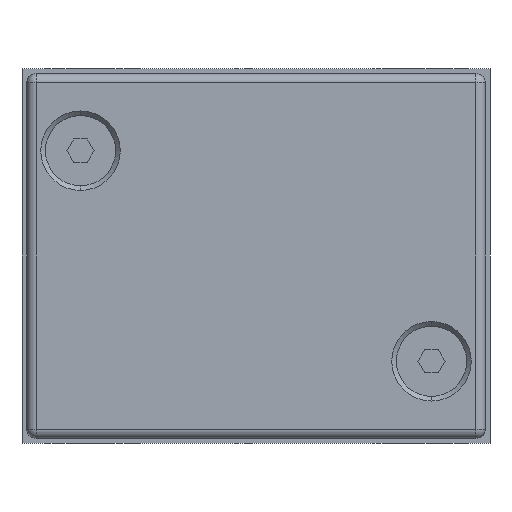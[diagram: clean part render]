
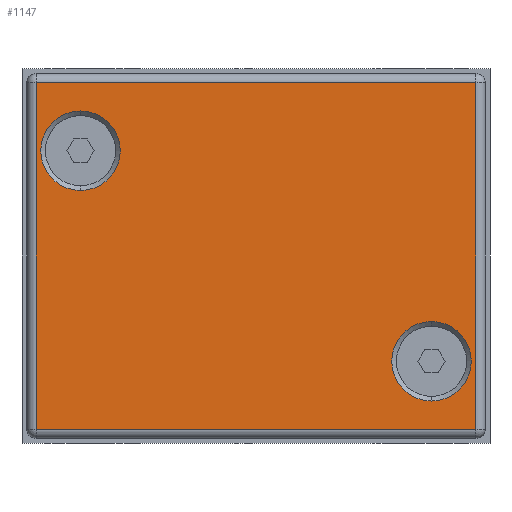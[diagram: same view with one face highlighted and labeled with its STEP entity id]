
A CAD part, front view. The second image highlights one B-rep face of the part: STEP entity #1147.
In plain terms, the highlighted planar face has unit normal (0, -1, 0).
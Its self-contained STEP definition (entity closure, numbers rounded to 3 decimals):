
#5 = EDGE_CURVE ( 'NONE', #916, #917, #1469, .T. ) ;
#7 = EDGE_CURVE ( 'NONE', #810, #811, #1474, .T. ) ;
#8 = EDGE_CURVE ( 'NONE', #808, #809, #1476, .T. ) ;
#9 = EDGE_CURVE ( 'NONE', #917, #918, #1475, .T. ) ;
#10 = EDGE_CURVE ( 'NONE', #918, #919, #1477, .T. ) ;
#69 = EDGE_CURVE ( 'NONE', #809, #808, #1580, .T. ) ;
#89 = EDGE_CURVE ( 'NONE', #811, #810, #1610, .T. ) ;
#149 = AXIS2_PLACEMENT_3D ( 'NONE', #948, #949, #950 ) ;
#150 = AXIS2_PLACEMENT_3D ( 'NONE', #945, #946, #947 ) ;
#170 = AXIS2_PLACEMENT_3D ( 'NONE', #1852, #1853, #1854 ) ;
#178 = AXIS2_PLACEMENT_3D ( 'NONE', #1901, #1903, #1904 ) ;
#555 = EDGE_CURVE ( 'NONE', #919, #916, #2477, .T. ) ;
#742 = EDGE_LOOP ( 'NONE', ( #1308, #1309, #1310, #1311 ) ) ;
#748 = EDGE_LOOP ( 'NONE', ( #1306, #1307 ) ) ;
#752 = EDGE_LOOP ( 'NONE', ( #1304, #1305 ) ) ;
#808 = VERTEX_POINT ( 'NONE', #2363 ) ;
#809 = VERTEX_POINT ( 'NONE', #2364 ) ;
#810 = VERTEX_POINT ( 'NONE', #2365 ) ;
#811 = VERTEX_POINT ( 'NONE', #2366 ) ;
#916 = VERTEX_POINT ( 'NONE', #2771 ) ;
#917 = VERTEX_POINT ( 'NONE', #2772 ) ;
#918 = VERTEX_POINT ( 'NONE', #2773 ) ;
#919 = VERTEX_POINT ( 'NONE', #2774 ) ;
#940 = CARTESIAN_POINT ( 'NONE',  ( 48.5, -2., 38.5 ) ) ;
#941 = DIRECTION ( 'NONE',  ( 0., 0., 1. ) ) ;
#942 = CARTESIAN_POINT ( 'NONE',  ( 1.5, -2., 38.5 ) ) ;
#945 = CARTESIAN_POINT ( 'NONE',  ( 43.75, -2., 8.75 ) ) ;
#946 = DIRECTION ( 'NONE',  ( 0., 1., 0. ) ) ;
#947 = DIRECTION ( 'NONE',  ( 0., 0., -1. ) ) ;
#948 = CARTESIAN_POINT ( 'NONE',  ( 6.25, -2., 31.25 ) ) ;
#949 = DIRECTION ( 'NONE',  ( 0., 1., 0. ) ) ;
#950 = DIRECTION ( 'NONE',  ( 0., 0., -1. ) ) ;
#952 = DIRECTION ( 'NONE',  ( -1., 0., 0. ) ) ;
#953 = CARTESIAN_POINT ( 'NONE',  ( 1.5, -2., 1.5 ) ) ;
#954 = DIRECTION ( 'NONE',  ( 0., 0., -1. ) ) ;
#1147 = ADVANCED_FACE ( 'NONE', ( #2597, #2601, #2603 ), #2966, .T. ) ;
#1304 = ORIENTED_EDGE ( 'NONE', *, *, #89, .T. ) ;
#1305 = ORIENTED_EDGE ( 'NONE', *, *, #7, .T. ) ;
#1306 = ORIENTED_EDGE ( 'NONE', *, *, #69, .T. ) ;
#1307 = ORIENTED_EDGE ( 'NONE', *, *, #8, .T. ) ;
#1308 = ORIENTED_EDGE ( 'NONE', *, *, #5, .T. ) ;
#1309 = ORIENTED_EDGE ( 'NONE', *, *, #9, .T. ) ;
#1310 = ORIENTED_EDGE ( 'NONE', *, *, #10, .T. ) ;
#1311 = ORIENTED_EDGE ( 'NONE', *, *, #555, .T. ) ;
#1469 = LINE ( 'NONE', #940, #1470 ) ;
#1470 = VECTOR ( 'NONE', #941, 1000. ) ;
#1473 = VECTOR ( 'NONE', #952, 1000. ) ;
#1474 = CIRCLE ( 'NONE', #150, 4.25 ) ;
#1475 = LINE ( 'NONE', #942, #1473 ) ;
#1476 = CIRCLE ( 'NONE', #149, 4.25 ) ;
#1477 = LINE ( 'NONE', #953, #1478 ) ;
#1478 = VECTOR ( 'NONE', #954, 1000. ) ;
#1580 = CIRCLE ( 'NONE', #170, 4.25 ) ;
#1610 = CIRCLE ( 'NONE', #178, 4.25 ) ;
#1852 = CARTESIAN_POINT ( 'NONE',  ( 6.25, -2., 31.25 ) ) ;
#1853 = DIRECTION ( 'NONE',  ( 0., 1., 0. ) ) ;
#1854 = DIRECTION ( 'NONE',  ( 0., 0., -1. ) ) ;
#1901 = CARTESIAN_POINT ( 'NONE',  ( 43.75, -2., 8.75 ) ) ;
#1903 = DIRECTION ( 'NONE',  ( 0., 1., 0. ) ) ;
#1904 = DIRECTION ( 'NONE',  ( 0., 0., -1. ) ) ;
#2310 = CARTESIAN_POINT ( 'NONE',  ( 48.5, -2., 1.5 ) ) ;
#2311 = DIRECTION ( 'NONE',  ( 1., 0., 0. ) ) ;
#2363 = CARTESIAN_POINT ( 'NONE',  ( 6.25, -2., 35.5 ) ) ;
#2364 = CARTESIAN_POINT ( 'NONE',  ( 6.25, -2., 27. ) ) ;
#2365 = CARTESIAN_POINT ( 'NONE',  ( 43.75, -2., 13. ) ) ;
#2366 = CARTESIAN_POINT ( 'NONE',  ( 43.75, -2., 4.5 ) ) ;
#2477 = LINE ( 'NONE', #2310, #2478 ) ;
#2478 = VECTOR ( 'NONE', #2311, 1000. ) ;
#2597 = FACE_BOUND ( 'NONE', #752, .T. ) ;
#2601 = FACE_BOUND ( 'NONE', #748, .T. ) ;
#2603 = FACE_OUTER_BOUND ( 'NONE', #742, .T. ) ;
#2771 = CARTESIAN_POINT ( 'NONE',  ( 48.5, -2., 1.5 ) ) ;
#2772 = CARTESIAN_POINT ( 'NONE',  ( 48.5, -2., 38.5 ) ) ;
#2773 = CARTESIAN_POINT ( 'NONE',  ( 1.5, -2., 38.5 ) ) ;
#2774 = CARTESIAN_POINT ( 'NONE',  ( 1.5, -2., 1.5 ) ) ;
#2959 = CARTESIAN_POINT ( 'NONE',  ( 1.5, -2., 38.5 ) ) ;
#2966 = PLANE ( 'NONE',  #3064 ) ;
#2967 = DIRECTION ( 'NONE',  ( 0., -1., 0. ) ) ;
#2968 = DIRECTION ( 'NONE',  ( 0., 0., -1. ) ) ;
#3064 = AXIS2_PLACEMENT_3D ( 'NONE', #2959, #2967, #2968 ) ;
